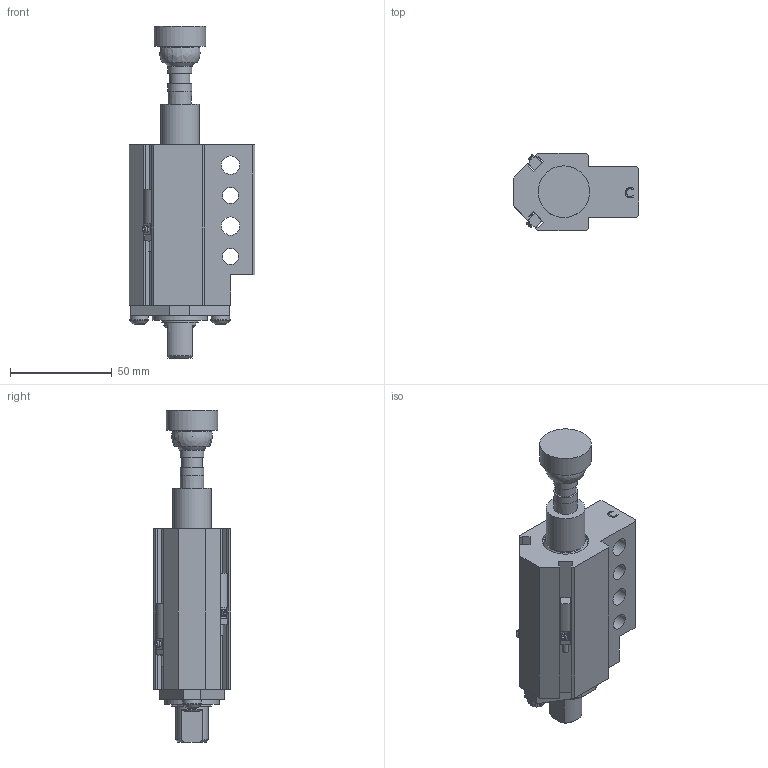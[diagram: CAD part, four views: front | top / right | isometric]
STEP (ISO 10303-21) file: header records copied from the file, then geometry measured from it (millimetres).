
FILE_DESCRIPTION(/* description */ ('MINI PASS THRU GROUND BLOCK'),/* implementation_level */ '2;1');
FILE_NAME(/* name */ 'C:\Vault Workspace\CAD\Welker\Cylinders\GBM\GBMDCL3.stp',/* time_stamp */ '2021-06-25T07:38:41-04:00',/* author */ ('KPL'),/* organization */ (''),/* preprocessor_version */ 'ST-DEVELOPER v18.1',/* originating_system */ 'Autodesk Inventor 2020',/* authorisation */ '');
FILE_SCHEMA (('AUTOMOTIVE_DESIGN { 1 0 10303 214 3 1 1 }'));
Products named in the file (11): GBML01; 91590A126; 96100A152; L3 Sensor 1; M5X0.8-10 BHCS; NL5; GBME01C; GBME02; GBME04; SN-148; AN-05U2145
Assembly tree (13 placements, depth 2):
  GBML01
    91590A126
    96100A152
    L3 Sensor 1  x2
    M5X0.8-10 BHCS  x2
    NL5  x2
    GBME01C
    GBME02
    GBME04
    SN-148
    AN-05U2145
Bounding box: 62 x 38.1 x 163.5 mm (x, y, z)
Volume: 134914.1 mm3; surface area: 50026.9 mm2
Topology: 13 solids, 13 shells, 445 faces, 1225 edges, 820 vertices
Faces by surface type: plane 304, cylinder 97, cone 18, bspline 18, torus 4, sphere 4
Full cylindrical faces by diameter (mm): 1.194 x2, 2.9 x2, 4.134 x2, 5 x2, 5.4 x2, 5.5 x2, 6.647 x1, 8 x2, 9 x4, 9.5 x2, 10 x1, 11.76 x2, 14.935 x1, 15.875 x3, 16.383 x1, 19.05 x1, 19.177 x1, 22.225 x2, 22.784 x1, 24.613 x1, 25.4 x1, 25.654 x1, 25.705 x1, 26.987 x1, 28.591 x1, 28.667 x1
Entity records: 10366 total; most frequent: CARTESIAN_POINT 1999, DIRECTION 1641, ORIENTED_EDGE 1630, EDGE_CURVE 815, AXIS2_PLACEMENT_3D 565, VERTEX_POINT 557, LINE 511, VECTOR 511
